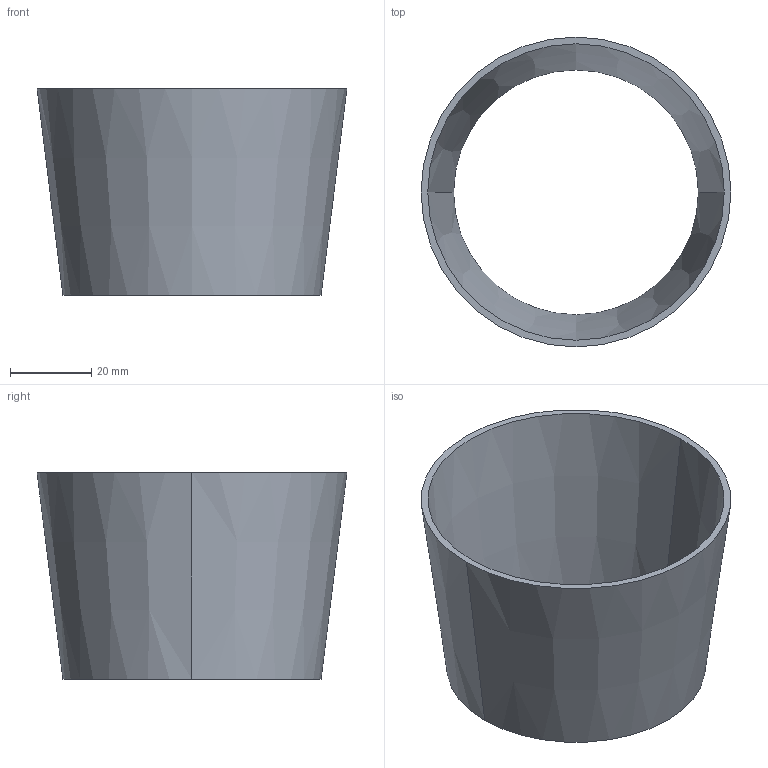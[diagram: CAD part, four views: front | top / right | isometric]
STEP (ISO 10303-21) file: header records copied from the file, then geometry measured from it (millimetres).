
FILE_DESCRIPTION (( 'STEP AP214' ), '1' );
FILE_NAME ('E31WW 3.0X2.5 REV2.STEP', '2025-07-29T13:52:23', ( '' ), ( '' ), 'SwSTEP 2.0', 'SolidWorks 2022', '' );
FILE_SCHEMA (( 'AUTOMOTIVE_DESIGN' ));
Length unit declared in the file: inch
Products named in the file (1): E31WW 3.0X2.5 REV2
Bounding box: 76.2 x 76.2 x 50.8 mm (x, y, z)
Volume: 17969.6 mm3; surface area: 22645 mm2
Topology: 1 solids, 1 shells, 6 faces, 12 edges, 8 vertices
Faces by surface type: cone 4, plane 2
Entity records: 208 total; most frequent: DIRECTION 34, CARTESIAN_POINT 27, ORIENTED_EDGE 24, AXIS2_PLACEMENT_3D 15, EDGE_CURVE 12, CIRCLE 8, EDGE_LOOP 8, VERTEX_POINT 8
